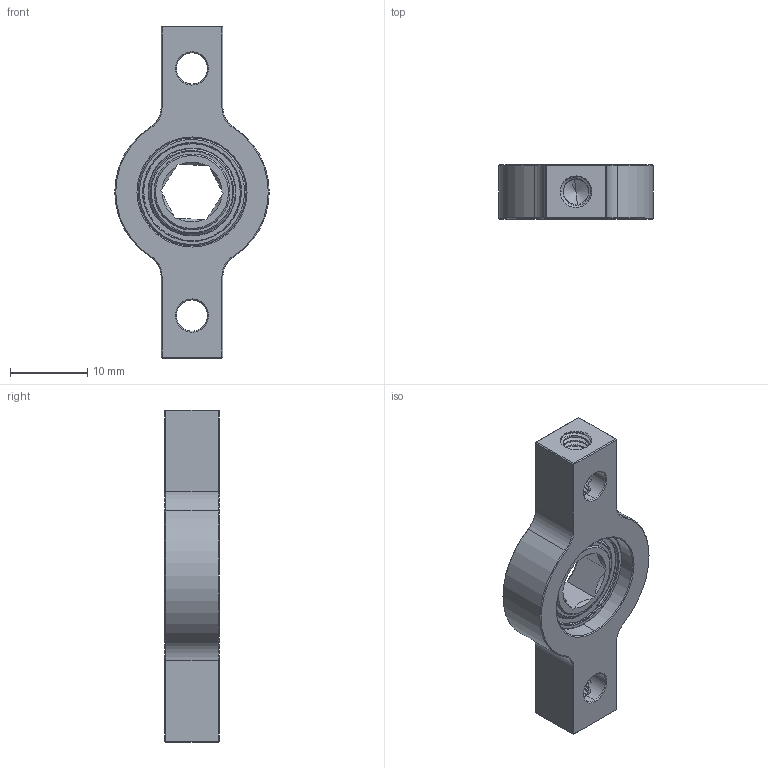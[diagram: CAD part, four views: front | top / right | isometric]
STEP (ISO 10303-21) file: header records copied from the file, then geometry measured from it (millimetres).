
FILE_DESCRIPTION (( 'STEP AP203' ), '1' );
FILE_NAME ('1606-0043-4008 assembly.STEP', '2023-01-04T14:50:42', ( '' ), ( '' ), 'SwSTEP 2.0', 'SolidWorks 2016', '' );
FILE_SCHEMA (( 'CONFIG_CONTROL_DESIGN' ));
Products named in the file (3): 1611-0514-4008; 1606-0043-0000; 1606-0043-4008 assembly
Assembly tree (2 placements, depth 2):
  1606-0043-4008 assembly
    1606-0043-0000
    1611-0514-4008
Bounding box: 20 x 7 x 43 mm (x, y, z)
Volume: 2584 mm3; surface area: 2919.9 mm2
Topology: 4 solids, 4 shells, 322 faces, 831 edges, 532 vertices
Faces by surface type: cylinder 143, cone 68, plane 51, bspline 40, torus 20
Entity records: 54409 total; most frequent: CARTESIAN_POINT 47167, ORIENTED_EDGE 1654, DIRECTION 1245, EDGE_CURVE 827, VERTEX_POINT 532, AXIS2_PLACEMENT_3D 491, EDGE_LOOP 353, FACE_OUTER_BOUND 322
